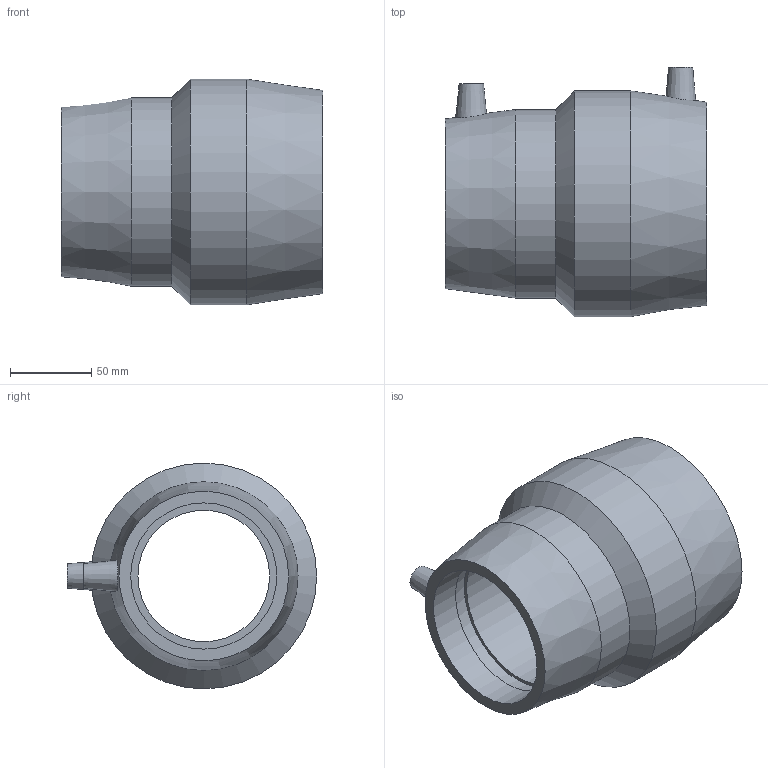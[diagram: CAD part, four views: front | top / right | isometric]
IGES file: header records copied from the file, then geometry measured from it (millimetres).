
Global section: file name: 491104110090.ipt; native system: Autodesk Inventor 2015; preprocessor: unknown; author: KIM; date: 20171106.093737; units: millimetre
Bounding box: 161 x 153.5 x 139 mm (x, y, z)
Volume: 713468.2 mm3; surface area: 129660.8 mm2
Topology: 1 solids, 1 shells, 31 faces, 72 edges, 51 vertices
Faces by surface type: plane 12, revolution 10, cone 5, cylinder 4
Full cylindrical faces by diameter (mm): 4 x2, 116 x1, 139 x1
